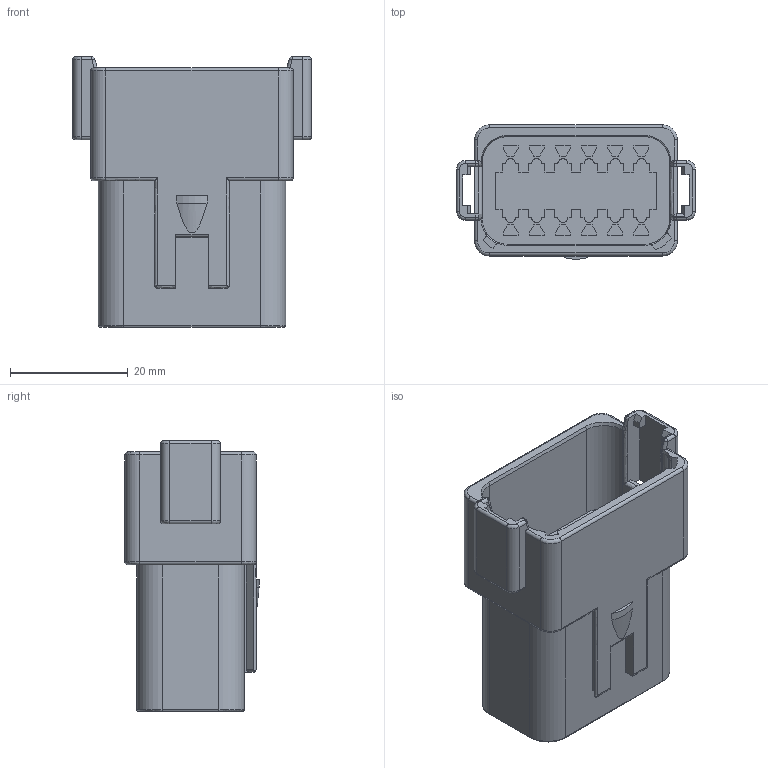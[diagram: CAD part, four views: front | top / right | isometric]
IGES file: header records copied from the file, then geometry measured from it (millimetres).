
Start section:  PTC IGES file: c-dt04-12pa-e004-99-3d.igs
Global section: file name: c-dt04-12pa-e004-99-3d.igs; native system: Pro/ENGINEER by Parametric Technology Corporation; preprocessor: 2011490; author: workeradm; organization: Unknown; units: millimetre
Bounding box: 40.56 x 22.76 x 45.92 mm (x, y, z)
Surface area: 8614.3 mm2 (no closed solid volume)
Topology: 0 solids, 0 shells, 590 faces, 3052 edges, 3052 vertices
Faces by surface type: bspline 370, revolution 220
